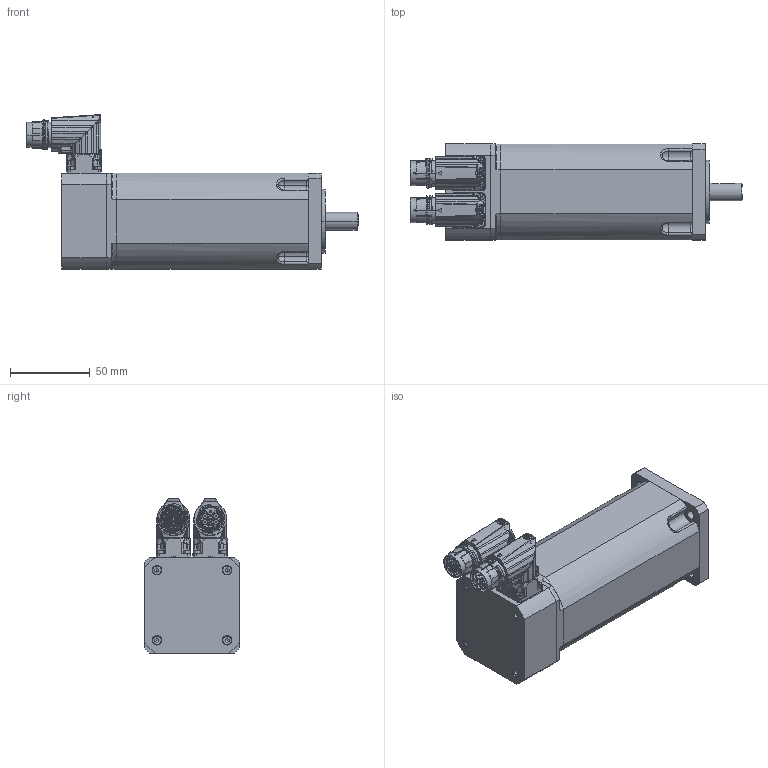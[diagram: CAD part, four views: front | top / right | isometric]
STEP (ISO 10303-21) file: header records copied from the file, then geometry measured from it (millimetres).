
FILE_DESCRIPTION(('CATIA V5 STEP Exchange'),'2;1');
FILE_NAME('C:\Documents and Settings\max\Documenti\sangallimotori\3d step\tg2\motore_DSM5_22_Freno.stp','2010-12-12T16:14:36+00:00',('none'),('none'),'CATIA Version 5 Release 10 (IN-8)','CATIA V5 STEP AP203',' none');
FILE_SCHEMA(('CONFIG_CONTROL_DESIGN'));
Assembly tree (27 placements, depth 0):
Bounding box: 207.73 x 60 x 96.56 mm (x, y, z)
Volume: 552720.1 mm3; surface area: 84956 mm2
Topology: 24 solids, 25 shells, 3631 faces, 11616 edges, 8096 vertices
Faces by surface type: cylinder 1383, bspline 816, plane 753, torus 287, cone 284, sphere 96, revolution 12
Entity records: 174469 total; most frequent: CARTESIAN_POINT 96620, ORIENTED_EDGE 21058, EDGE_CURVE 10542, DIRECTION 9127, VERTEX_POINT 7446, B_SPLINE_CURVE_WITH_KNOTS 5164, AXIS2_PLACEMENT_3D 4404, EDGE_LOOP 3323
